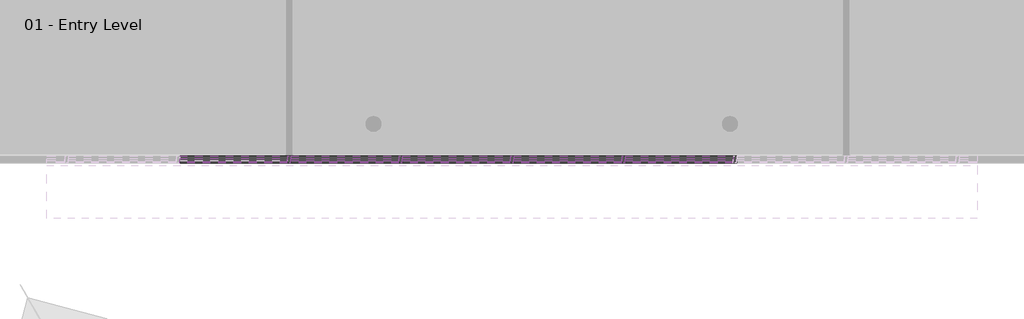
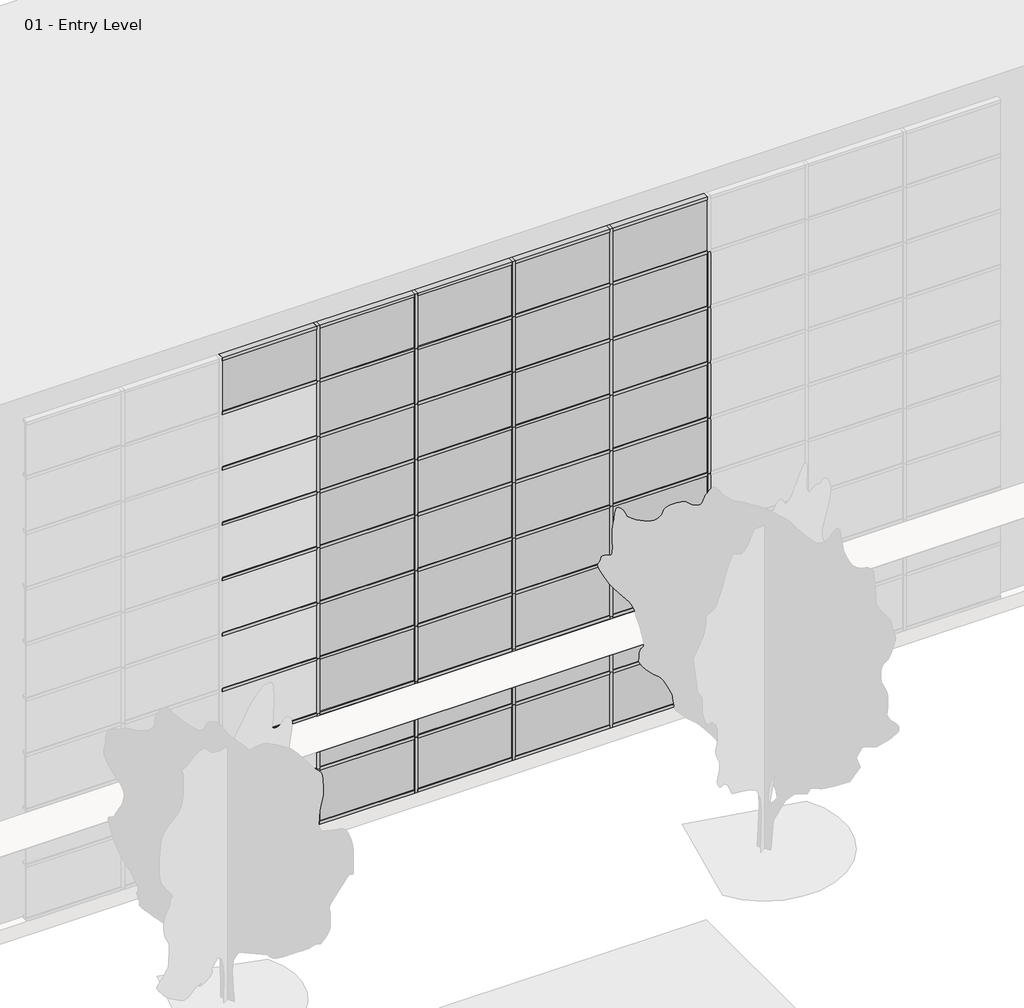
# One storey, part 4 of 34: 94 members, 37 plates.
"""IFC4 building model written with IfcOpenShell, lengths in millimetres."""

from ifc_helpers import new_model, si_unit, origin, place, context, project, spatial, transform, mapped, element, save
from components import member_2b49869a, member_391b434c, member_9e90ae50, system_panel_glazed_1b9d6098, system_panel_glazed_70da479d, system_panel_solid_b376696c, system_panel_solid_77e8b053

model = new_model("IFC4")

# Units and contexts
model_context = context("Model", 3, world=origin())
ifc_project = project(units=[si_unit("LENGTHUNIT", "METRE", prefix="MILLI")], contexts=[model_context])

# Site, building, storey
site = spatial("IfcSite", under=ifc_project)
building = spatial("IfcBuilding", under=site)
storey = spatial("IfcBuildingStorey", under=building, Name="01 - Entry Level", Elevation=0.0)

# Members
placement = place(None, origin())
member_shape = member_2b49869a(model_context)
element("IfcMember", 1, ObjectType="Rectangular Mullion : 2.5\" x 5\" rectangular", at=placement, inside=storey, context=model_context, shape_type="MappedRepresentation", body=[
    mapped(member_shape, transform((40755.2207476, -47.7, 9753.6), x_axis=(1.0, 0.0, 0.0), y_axis=(0.0, -1.0, 0.0), z_axis=(0.0, 0.0, -1.0))),
])
element("IfcMember", 2, ObjectType="Rectangular Mullion : 2.5\" x 5\" rectangular", at=placement, inside=storey, context=model_context, shape_type="MappedRepresentation", body=[
    mapped(member_shape, transform((42787.2207476, -47.7, 9753.6), x_axis=(1.0, 0.0, 0.0), y_axis=(0.0, -1.0, 0.0), z_axis=(0.0, 0.0, -1.0))),
])
element("IfcMember", 3, ObjectType="Rectangular Mullion : 2.5\" x 5\" rectangular", at=placement, inside=storey, context=model_context, shape_type="MappedRepresentation", body=[
    mapped(member_shape, transform((44819.2207476, -47.7, 9753.6), x_axis=(1.0, 0.0, 0.0), y_axis=(0.0, -1.0, 0.0), z_axis=(0.0, 0.0, -1.0))),
])
element("IfcMember", 4, ObjectType="Rectangular Mullion : 2.5\" x 5\" rectangular", at=placement, inside=storey, context=model_context, shape_type="MappedRepresentation", body=[
    mapped(member_shape, transform((46851.2207476, -47.7, 9753.6), x_axis=(1.0, 0.0, 0.0), y_axis=(0.0, -1.0, 0.0), z_axis=(0.0, 0.0, -1.0))),
])
member_2_shape = member_391b434c(model_context)
element("IfcMember", 5, ObjectType="Rectangular Mullion : 2.5\" x 5\" rectangular", at=placement, inside=storey, context=model_context, shape_type="MappedRepresentation", body=[
    mapped(member_2_shape, transform((40723.4707476, -47.7, 10972.8), x_axis=(0.0, 0.0, 1.0), y_axis=(0.0, -1.0, 0.0), z_axis=(1.0, 0.0, 0.0))),
])
element("IfcMember", 6, ObjectType="Rectangular Mullion : 2.5\" x 5\" rectangular", at=placement, inside=storey, context=model_context, shape_type="MappedRepresentation", body=[
    mapped(member_2_shape, transform((42755.4707476, -47.7, 10972.8), x_axis=(0.0, 0.0, 1.0), y_axis=(0.0, -1.0, 0.0), z_axis=(1.0, 0.0, 0.0))),
])
element("IfcMember", 7, ObjectType="Rectangular Mullion : 2.5\" x 5\" rectangular", at=placement, inside=storey, context=model_context, shape_type="MappedRepresentation", body=[
    mapped(member_2_shape, transform((44787.4707476, -47.7, 10972.8), x_axis=(0.0, 0.0, 1.0), y_axis=(0.0, -1.0, 0.0), z_axis=(1.0, 0.0, 0.0))),
])
element("IfcMember", 8, ObjectType="Rectangular Mullion : 2.5\" x 5\" rectangular", at=placement, inside=storey, context=model_context, shape_type="MappedRepresentation", body=[
    mapped(member_2_shape, transform((46819.4707476, -47.7, 10972.8), x_axis=(0.0, 0.0, 1.0), y_axis=(0.0, -1.0, 0.0), z_axis=(1.0, 0.0, 0.0))),
])
element("IfcMember", 9, ObjectType="Rectangular Mullion : 2.5\" x 5\" rectangular", at=placement, inside=storey, context=model_context, shape_type="MappedRepresentation", body=[
    mapped(member_2_shape, transform((48851.4707476, -47.7, 10972.8), x_axis=(0.0, 0.0, 1.0), y_axis=(0.0, -1.0, 0.0), z_axis=(1.0, 0.0, 0.0))),
])
element("IfcMember", 10, ObjectType="Rectangular Mullion : 2.5\" x 5\" rectangular", at=placement, inside=storey, context=model_context, shape_type="MappedRepresentation", body=[
    mapped(member_2_shape, transform((40786.9707476, -47.7, 0.0), x_axis=(0.0, 0.0, -1.0), y_axis=(0.0, -1.0, 0.0), z_axis=(-1.0, 0.0, 0.0))),
])
element("IfcMember", 11, ObjectType="Rectangular Mullion : 2.5\" x 5\" rectangular", at=placement, inside=storey, context=model_context, shape_type="MappedRepresentation", body=[
    mapped(member_2_shape, transform((42818.9707476, -47.7, 0.0), x_axis=(0.0, 0.0, -1.0), y_axis=(0.0, -1.0, 0.0), z_axis=(-1.0, 0.0, 0.0))),
])
element("IfcMember", 12, ObjectType="Rectangular Mullion : 2.5\" x 5\" rectangular", at=placement, inside=storey, context=model_context, shape_type="MappedRepresentation", body=[
    mapped(member_2_shape, transform((44850.9707476, -47.7, 0.0), x_axis=(0.0, 0.0, -1.0), y_axis=(0.0, -1.0, 0.0), z_axis=(-1.0, 0.0, 0.0))),
])
element("IfcMember", 13, ObjectType="Rectangular Mullion : 2.5\" x 5\" rectangular", at=placement, inside=storey, context=model_context, shape_type="MappedRepresentation", body=[
    mapped(member_2_shape, transform((46882.9707476, -47.7, 0.0), x_axis=(0.0, 0.0, -1.0), y_axis=(0.0, -1.0, 0.0), z_axis=(-1.0, 0.0, 0.0))),
])
element("IfcMember", 14, ObjectType="Rectangular Mullion : 2.5\" x 5\" rectangular", at=placement, inside=storey, context=model_context, shape_type="MappedRepresentation", body=[
    mapped(member_2_shape, transform((48914.9707476, -47.7, 0.0), x_axis=(0.0, 0.0, -1.0), y_axis=(0.0, -1.0, 0.0), z_axis=(-1.0, 0.0, 0.0))),
])
member_3_shape = member_9e90ae50(model_context)
element("IfcMember", 15, ObjectType="Rectangular Mullion : 2.5\" x 5\" rectangular", at=placement, inside=storey, context=model_context, shape_type="MappedRepresentation", body=[
    mapped(member_3_shape, transform((40723.4707476, -47.7, 1219.2), x_axis=(0.0, 0.0, 1.0), y_axis=(0.0, -1.0, 0.0), z_axis=(1.0, 0.0, 0.0))),
])
element("IfcMember", 16, ObjectType="Rectangular Mullion : 2.5\" x 5\" rectangular", at=placement, inside=storey, context=model_context, shape_type="MappedRepresentation", body=[
    mapped(member_3_shape, transform((42755.4707476, -47.7, 1219.2), x_axis=(0.0, 0.0, 1.0), y_axis=(0.0, -1.0, 0.0), z_axis=(1.0, 0.0, 0.0))),
])
element("IfcMember", 17, ObjectType="Rectangular Mullion : 2.5\" x 5\" rectangular", at=placement, inside=storey, context=model_context, shape_type="MappedRepresentation", body=[
    mapped(member_3_shape, transform((44787.4707476, -47.7, 1219.2), x_axis=(0.0, 0.0, 1.0), y_axis=(0.0, -1.0, 0.0), z_axis=(1.0, 0.0, 0.0))),
])
element("IfcMember", 18, ObjectType="Rectangular Mullion : 2.5\" x 5\" rectangular", at=placement, inside=storey, context=model_context, shape_type="MappedRepresentation", body=[
    mapped(member_3_shape, transform((46819.4707476, -47.7, 1219.2), x_axis=(0.0, 0.0, 1.0), y_axis=(0.0, -1.0, 0.0), z_axis=(1.0, 0.0, 0.0))),
])
element("IfcMember", 19, ObjectType="Rectangular Mullion : 2.5\" x 5\" rectangular", at=placement, inside=storey, context=model_context, shape_type="MappedRepresentation", body=[
    mapped(member_3_shape, transform((48851.4707476, -47.7, 1219.2), x_axis=(0.0, 0.0, 1.0), y_axis=(0.0, -1.0, 0.0), z_axis=(1.0, 0.0, 0.0))),
])
element("IfcMember", 20, ObjectType="Rectangular Mullion : 2.5\" x 5\" rectangular", at=placement, inside=storey, context=model_context, shape_type="MappedRepresentation", body=[
    mapped(member_3_shape, transform((40723.4707476, -47.7, 2438.4), x_axis=(0.0, 0.0, 1.0), y_axis=(0.0, -1.0, 0.0), z_axis=(1.0, 0.0, 0.0))),
])
element("IfcMember", 21, ObjectType="Rectangular Mullion : 2.5\" x 5\" rectangular", at=placement, inside=storey, context=model_context, shape_type="MappedRepresentation", body=[
    mapped(member_3_shape, transform((42755.4707476, -47.7, 2438.4), x_axis=(0.0, 0.0, 1.0), y_axis=(0.0, -1.0, 0.0), z_axis=(1.0, 0.0, 0.0))),
])
element("IfcMember", 22, ObjectType="Rectangular Mullion : 2.5\" x 5\" rectangular", at=placement, inside=storey, context=model_context, shape_type="MappedRepresentation", body=[
    mapped(member_3_shape, transform((44787.4707476, -47.7, 2438.4), x_axis=(0.0, 0.0, 1.0), y_axis=(0.0, -1.0, 0.0), z_axis=(1.0, 0.0, 0.0))),
])
element("IfcMember", 23, ObjectType="Rectangular Mullion : 2.5\" x 5\" rectangular", at=placement, inside=storey, context=model_context, shape_type="MappedRepresentation", body=[
    mapped(member_3_shape, transform((46819.4707476, -47.7, 2438.4), x_axis=(0.0, 0.0, 1.0), y_axis=(0.0, -1.0, 0.0), z_axis=(1.0, 0.0, 0.0))),
])
element("IfcMember", 24, ObjectType="Rectangular Mullion : 2.5\" x 5\" rectangular", at=placement, inside=storey, context=model_context, shape_type="MappedRepresentation", body=[
    mapped(member_3_shape, transform((48851.4707476, -47.7, 2438.4), x_axis=(0.0, 0.0, 1.0), y_axis=(0.0, -1.0, 0.0), z_axis=(1.0, 0.0, 0.0))),
])
element("IfcMember", 25, ObjectType="Rectangular Mullion : 2.5\" x 5\" rectangular", at=placement, inside=storey, context=model_context, shape_type="MappedRepresentation", body=[
    mapped(member_3_shape, transform((40723.4707476, -47.7, 3657.6), x_axis=(0.0, 0.0, 1.0), y_axis=(0.0, -1.0, 0.0), z_axis=(1.0, 0.0, 0.0))),
])
element("IfcMember", 26, ObjectType="Rectangular Mullion : 2.5\" x 5\" rectangular", at=placement, inside=storey, context=model_context, shape_type="MappedRepresentation", body=[
    mapped(member_3_shape, transform((42755.4707476, -47.7, 3657.6), x_axis=(0.0, 0.0, 1.0), y_axis=(0.0, -1.0, 0.0), z_axis=(1.0, 0.0, 0.0))),
])
element("IfcMember", 27, ObjectType="Rectangular Mullion : 2.5\" x 5\" rectangular", at=placement, inside=storey, context=model_context, shape_type="MappedRepresentation", body=[
    mapped(member_3_shape, transform((44787.4707476, -47.7, 3657.6), x_axis=(0.0, 0.0, 1.0), y_axis=(0.0, -1.0, 0.0), z_axis=(1.0, 0.0, 0.0))),
])
element("IfcMember", 28, ObjectType="Rectangular Mullion : 2.5\" x 5\" rectangular", at=placement, inside=storey, context=model_context, shape_type="MappedRepresentation", body=[
    mapped(member_3_shape, transform((46819.4707476, -47.7, 3657.6), x_axis=(0.0, 0.0, 1.0), y_axis=(0.0, -1.0, 0.0), z_axis=(1.0, 0.0, 0.0))),
])
element("IfcMember", 29, ObjectType="Rectangular Mullion : 2.5\" x 5\" rectangular", at=placement, inside=storey, context=model_context, shape_type="MappedRepresentation", body=[
    mapped(member_3_shape, transform((48851.4707476, -47.7, 3657.6), x_axis=(0.0, 0.0, 1.0), y_axis=(0.0, -1.0, 0.0), z_axis=(1.0, 0.0, 0.0))),
])
element("IfcMember", 30, ObjectType="Rectangular Mullion : 2.5\" x 5\" rectangular", at=placement, inside=storey, context=model_context, shape_type="MappedRepresentation", body=[
    mapped(member_3_shape, transform((40723.4707476, -47.7, 4876.8), x_axis=(0.0, 0.0, 1.0), y_axis=(0.0, -1.0, 0.0), z_axis=(1.0, 0.0, 0.0))),
])
element("IfcMember", 31, ObjectType="Rectangular Mullion : 2.5\" x 5\" rectangular", at=placement, inside=storey, context=model_context, shape_type="MappedRepresentation", body=[
    mapped(member_3_shape, transform((42755.4707476, -47.7, 4876.8), x_axis=(0.0, 0.0, 1.0), y_axis=(0.0, -1.0, 0.0), z_axis=(1.0, 0.0, 0.0))),
])
element("IfcMember", 32, ObjectType="Rectangular Mullion : 2.5\" x 5\" rectangular", at=placement, inside=storey, context=model_context, shape_type="MappedRepresentation", body=[
    mapped(member_3_shape, transform((44787.4707476, -47.7, 4876.8), x_axis=(0.0, 0.0, 1.0), y_axis=(0.0, -1.0, 0.0), z_axis=(1.0, 0.0, 0.0))),
])
element("IfcMember", 33, ObjectType="Rectangular Mullion : 2.5\" x 5\" rectangular", at=placement, inside=storey, context=model_context, shape_type="MappedRepresentation", body=[
    mapped(member_3_shape, transform((46819.4707476, -47.7, 4876.8), x_axis=(0.0, 0.0, 1.0), y_axis=(0.0, -1.0, 0.0), z_axis=(1.0, 0.0, 0.0))),
])
element("IfcMember", 34, ObjectType="Rectangular Mullion : 2.5\" x 5\" rectangular", at=placement, inside=storey, context=model_context, shape_type="MappedRepresentation", body=[
    mapped(member_3_shape, transform((48851.4707476, -47.7, 4876.8), x_axis=(0.0, 0.0, 1.0), y_axis=(0.0, -1.0, 0.0), z_axis=(1.0, 0.0, 0.0))),
])
element("IfcMember", 35, ObjectType="Rectangular Mullion : 2.5\" x 5\" rectangular", at=placement, inside=storey, context=model_context, shape_type="MappedRepresentation", body=[
    mapped(member_3_shape, transform((40723.4707476, -47.7, 6096.0), x_axis=(0.0, 0.0, 1.0), y_axis=(0.0, -1.0, 0.0), z_axis=(1.0, 0.0, 0.0))),
])
element("IfcMember", 36, ObjectType="Rectangular Mullion : 2.5\" x 5\" rectangular", at=placement, inside=storey, context=model_context, shape_type="MappedRepresentation", body=[
    mapped(member_3_shape, transform((42755.4707476, -47.7, 6096.0), x_axis=(0.0, 0.0, 1.0), y_axis=(0.0, -1.0, 0.0), z_axis=(1.0, 0.0, 0.0))),
])
element("IfcMember", 37, ObjectType="Rectangular Mullion : 2.5\" x 5\" rectangular", at=placement, inside=storey, context=model_context, shape_type="MappedRepresentation", body=[
    mapped(member_3_shape, transform((44787.4707476, -47.7, 6096.0), x_axis=(0.0, 0.0, 1.0), y_axis=(0.0, -1.0, 0.0), z_axis=(1.0, 0.0, 0.0))),
])
element("IfcMember", 38, ObjectType="Rectangular Mullion : 2.5\" x 5\" rectangular", at=placement, inside=storey, context=model_context, shape_type="MappedRepresentation", body=[
    mapped(member_3_shape, transform((46819.4707476, -47.7, 6096.0), x_axis=(0.0, 0.0, 1.0), y_axis=(0.0, -1.0, 0.0), z_axis=(1.0, 0.0, 0.0))),
])
element("IfcMember", 39, ObjectType="Rectangular Mullion : 2.5\" x 5\" rectangular", at=placement, inside=storey, context=model_context, shape_type="MappedRepresentation", body=[
    mapped(member_3_shape, transform((48851.4707476, -47.7, 6096.0), x_axis=(0.0, 0.0, 1.0), y_axis=(0.0, -1.0, 0.0), z_axis=(1.0, 0.0, 0.0))),
])
element("IfcMember", 40, ObjectType="Rectangular Mullion : 2.5\" x 5\" rectangular", at=placement, inside=storey, context=model_context, shape_type="MappedRepresentation", body=[
    mapped(member_3_shape, transform((40723.4707476, -47.7, 7315.2), x_axis=(0.0, 0.0, 1.0), y_axis=(0.0, -1.0, 0.0), z_axis=(1.0, 0.0, 0.0))),
])
element("IfcMember", 41, ObjectType="Rectangular Mullion : 2.5\" x 5\" rectangular", at=placement, inside=storey, context=model_context, shape_type="MappedRepresentation", body=[
    mapped(member_3_shape, transform((42755.4707476, -47.7, 7315.2), x_axis=(0.0, 0.0, 1.0), y_axis=(0.0, -1.0, 0.0), z_axis=(1.0, 0.0, 0.0))),
])
element("IfcMember", 42, ObjectType="Rectangular Mullion : 2.5\" x 5\" rectangular", at=placement, inside=storey, context=model_context, shape_type="MappedRepresentation", body=[
    mapped(member_3_shape, transform((44787.4707476, -47.7, 7315.2), x_axis=(0.0, 0.0, 1.0), y_axis=(0.0, -1.0, 0.0), z_axis=(1.0, 0.0, 0.0))),
])
element("IfcMember", 43, ObjectType="Rectangular Mullion : 2.5\" x 5\" rectangular", at=placement, inside=storey, context=model_context, shape_type="MappedRepresentation", body=[
    mapped(member_3_shape, transform((46819.4707476, -47.7, 7315.2), x_axis=(0.0, 0.0, 1.0), y_axis=(0.0, -1.0, 0.0), z_axis=(1.0, 0.0, 0.0))),
])
element("IfcMember", 44, ObjectType="Rectangular Mullion : 2.5\" x 5\" rectangular", at=placement, inside=storey, context=model_context, shape_type="MappedRepresentation", body=[
    mapped(member_3_shape, transform((48851.4707476, -47.7, 7315.2), x_axis=(0.0, 0.0, 1.0), y_axis=(0.0, -1.0, 0.0), z_axis=(1.0, 0.0, 0.0))),
])
element("IfcMember", 45, ObjectType="Rectangular Mullion : 2.5\" x 5\" rectangular", at=placement, inside=storey, context=model_context, shape_type="MappedRepresentation", body=[
    mapped(member_3_shape, transform((40723.4707476, -47.7, 8534.4), x_axis=(0.0, 0.0, 1.0), y_axis=(0.0, -1.0, 0.0), z_axis=(1.0, 0.0, 0.0))),
])
element("IfcMember", 46, ObjectType="Rectangular Mullion : 2.5\" x 5\" rectangular", at=placement, inside=storey, context=model_context, shape_type="MappedRepresentation", body=[
    mapped(member_3_shape, transform((42755.4707476, -47.7, 8534.4), x_axis=(0.0, 0.0, 1.0), y_axis=(0.0, -1.0, 0.0), z_axis=(1.0, 0.0, 0.0))),
])
element("IfcMember", 47, ObjectType="Rectangular Mullion : 2.5\" x 5\" rectangular", at=placement, inside=storey, context=model_context, shape_type="MappedRepresentation", body=[
    mapped(member_3_shape, transform((44787.4707476, -47.7, 8534.4), x_axis=(0.0, 0.0, 1.0), y_axis=(0.0, -1.0, 0.0), z_axis=(1.0, 0.0, 0.0))),
])
element("IfcMember", 48, ObjectType="Rectangular Mullion : 2.5\" x 5\" rectangular", at=placement, inside=storey, context=model_context, shape_type="MappedRepresentation", body=[
    mapped(member_3_shape, transform((46819.4707476, -47.7, 8534.4), x_axis=(0.0, 0.0, 1.0), y_axis=(0.0, -1.0, 0.0), z_axis=(1.0, 0.0, 0.0))),
])
element("IfcMember", 49, ObjectType="Rectangular Mullion : 2.5\" x 5\" rectangular", at=placement, inside=storey, context=model_context, shape_type="MappedRepresentation", body=[
    mapped(member_3_shape, transform((48851.4707476, -47.7, 8534.4), x_axis=(0.0, 0.0, 1.0), y_axis=(0.0, -1.0, 0.0), z_axis=(1.0, 0.0, 0.0))),
])
element("IfcMember", 50, ObjectType="Rectangular Mullion : 2.5\" x 5\" rectangular", at=placement, inside=storey, context=model_context, shape_type="MappedRepresentation", body=[
    mapped(member_3_shape, transform((40723.4707476, -47.7, 9753.6), x_axis=(0.0, 0.0, 1.0), y_axis=(0.0, -1.0, 0.0), z_axis=(1.0, 0.0, 0.0))),
])
element("IfcMember", 51, ObjectType="Rectangular Mullion : 2.5\" x 5\" rectangular", at=placement, inside=storey, context=model_context, shape_type="MappedRepresentation", body=[
    mapped(member_3_shape, transform((42755.4707476, -47.7, 9753.6), x_axis=(0.0, 0.0, 1.0), y_axis=(0.0, -1.0, 0.0), z_axis=(1.0, 0.0, 0.0))),
])
element("IfcMember", 52, ObjectType="Rectangular Mullion : 2.5\" x 5\" rectangular", at=placement, inside=storey, context=model_context, shape_type="MappedRepresentation", body=[
    mapped(member_3_shape, transform((44787.4707476, -47.7, 9753.6), x_axis=(0.0, 0.0, 1.0), y_axis=(0.0, -1.0, 0.0), z_axis=(1.0, 0.0, 0.0))),
])
element("IfcMember", 53, ObjectType="Rectangular Mullion : 2.5\" x 5\" rectangular", at=placement, inside=storey, context=model_context, shape_type="MappedRepresentation", body=[
    mapped(member_3_shape, transform((46819.4707476, -47.7, 9753.6), x_axis=(0.0, 0.0, 1.0), y_axis=(0.0, -1.0, 0.0), z_axis=(1.0, 0.0, 0.0))),
])
element("IfcMember", 54, ObjectType="Rectangular Mullion : 2.5\" x 5\" rectangular", at=placement, inside=storey, context=model_context, shape_type="MappedRepresentation", body=[
    mapped(member_3_shape, transform((48851.4707476, -47.7, 9753.6), x_axis=(0.0, 0.0, 1.0), y_axis=(0.0, -1.0, 0.0), z_axis=(1.0, 0.0, 0.0))),
])
element("IfcMember", 55, ObjectType="Rectangular Mullion : 2.5\" x 5\" rectangular", at=placement, inside=storey, context=model_context, shape_type="MappedRepresentation", body=[
    mapped(member_shape, transform((40755.2207476, -47.7, 0.0), x_axis=(1.0, 0.0, 0.0), y_axis=(0.0, -1.0, 0.0), z_axis=(0.0, 0.0, -1.0))),
])
element("IfcMember", 56, ObjectType="Rectangular Mullion : 2.5\" x 5\" rectangular", at=placement, inside=storey, context=model_context, shape_type="MappedRepresentation", body=[
    mapped(member_shape, transform((42787.2207476, -47.7, 0.0), x_axis=(1.0, 0.0, 0.0), y_axis=(0.0, -1.0, 0.0), z_axis=(0.0, 0.0, -1.0))),
])
element("IfcMember", 57, ObjectType="Rectangular Mullion : 2.5\" x 5\" rectangular", at=placement, inside=storey, context=model_context, shape_type="MappedRepresentation", body=[
    mapped(member_shape, transform((44819.2207476, -47.7, 0.0), x_axis=(1.0, 0.0, 0.0), y_axis=(0.0, -1.0, 0.0), z_axis=(0.0, 0.0, -1.0))),
])
element("IfcMember", 58, ObjectType="Rectangular Mullion : 2.5\" x 5\" rectangular", at=placement, inside=storey, context=model_context, shape_type="MappedRepresentation", body=[
    mapped(member_shape, transform((46851.2207476, -47.7, 0.0), x_axis=(1.0, 0.0, 0.0), y_axis=(0.0, -1.0, 0.0), z_axis=(0.0, 0.0, -1.0))),
])
element("IfcMember", 59, ObjectType="Rectangular Mullion : 2.5\" x 5\" rectangular", at=placement, inside=storey, context=model_context, shape_type="MappedRepresentation", body=[
    mapped(member_shape, transform((48883.2207476, -47.7, 0.0), x_axis=(1.0, 0.0, 0.0), y_axis=(0.0, -1.0, 0.0), z_axis=(0.0, 0.0, -1.0))),
])
element("IfcMember", 60, ObjectType="Rectangular Mullion : 2.5\" x 5\" rectangular", at=placement, inside=storey, context=model_context, shape_type="MappedRepresentation", body=[
    mapped(member_shape, transform((40755.2207476, -47.7, 1219.2), x_axis=(1.0, 0.0, 0.0), y_axis=(0.0, -1.0, 0.0), z_axis=(0.0, 0.0, -1.0))),
])
element("IfcMember", 61, ObjectType="Rectangular Mullion : 2.5\" x 5\" rectangular", at=placement, inside=storey, context=model_context, shape_type="MappedRepresentation", body=[
    mapped(member_shape, transform((42787.2207476, -47.7, 1219.2), x_axis=(1.0, 0.0, 0.0), y_axis=(0.0, -1.0, 0.0), z_axis=(0.0, 0.0, -1.0))),
])
element("IfcMember", 62, ObjectType="Rectangular Mullion : 2.5\" x 5\" rectangular", at=placement, inside=storey, context=model_context, shape_type="MappedRepresentation", body=[
    mapped(member_shape, transform((44819.2207476, -47.7, 1219.2), x_axis=(1.0, 0.0, 0.0), y_axis=(0.0, -1.0, 0.0), z_axis=(0.0, 0.0, -1.0))),
])
element("IfcMember", 63, ObjectType="Rectangular Mullion : 2.5\" x 5\" rectangular", at=placement, inside=storey, context=model_context, shape_type="MappedRepresentation", body=[
    mapped(member_shape, transform((46851.2207476, -47.7, 1219.2), x_axis=(1.0, 0.0, 0.0), y_axis=(0.0, -1.0, 0.0), z_axis=(0.0, 0.0, -1.0))),
])
element("IfcMember", 64, ObjectType="Rectangular Mullion : 2.5\" x 5\" rectangular", at=placement, inside=storey, context=model_context, shape_type="MappedRepresentation", body=[
    mapped(member_shape, transform((48883.2207476, -47.7, 1219.2), x_axis=(1.0, 0.0, 0.0), y_axis=(0.0, -1.0, 0.0), z_axis=(0.0, 0.0, -1.0))),
])
element("IfcMember", 65, ObjectType="Rectangular Mullion : 2.5\" x 5\" rectangular", at=placement, inside=storey, context=model_context, shape_type="MappedRepresentation", body=[
    mapped(member_shape, transform((40755.2207476, -47.7, 2438.4), x_axis=(1.0, 0.0, 0.0), y_axis=(0.0, -1.0, 0.0), z_axis=(0.0, 0.0, -1.0))),
])
element("IfcMember", 66, ObjectType="Rectangular Mullion : 2.5\" x 5\" rectangular", at=placement, inside=storey, context=model_context, shape_type="MappedRepresentation", body=[
    mapped(member_shape, transform((42787.2207476, -47.7, 2438.4), x_axis=(1.0, 0.0, 0.0), y_axis=(0.0, -1.0, 0.0), z_axis=(0.0, 0.0, -1.0))),
])
element("IfcMember", 67, ObjectType="Rectangular Mullion : 2.5\" x 5\" rectangular", at=placement, inside=storey, context=model_context, shape_type="MappedRepresentation", body=[
    mapped(member_shape, transform((44819.2207476, -47.7, 2438.4), x_axis=(1.0, 0.0, 0.0), y_axis=(0.0, -1.0, 0.0), z_axis=(0.0, 0.0, -1.0))),
])
element("IfcMember", 68, ObjectType="Rectangular Mullion : 2.5\" x 5\" rectangular", at=placement, inside=storey, context=model_context, shape_type="MappedRepresentation", body=[
    mapped(member_shape, transform((46851.2207476, -47.7, 2438.4), x_axis=(1.0, 0.0, 0.0), y_axis=(0.0, -1.0, 0.0), z_axis=(0.0, 0.0, -1.0))),
])
element("IfcMember", 69, ObjectType="Rectangular Mullion : 2.5\" x 5\" rectangular", at=placement, inside=storey, context=model_context, shape_type="MappedRepresentation", body=[
    mapped(member_shape, transform((48883.2207476, -47.7, 2438.4), x_axis=(1.0, 0.0, 0.0), y_axis=(0.0, -1.0, 0.0), z_axis=(0.0, 0.0, -1.0))),
])
element("IfcMember", 70, ObjectType="Rectangular Mullion : 2.5\" x 5\" rectangular", at=placement, inside=storey, context=model_context, shape_type="MappedRepresentation", body=[
    mapped(member_shape, transform((40755.2207476, -47.7, 3657.6), x_axis=(1.0, 0.0, 0.0), y_axis=(0.0, -1.0, 0.0), z_axis=(0.0, 0.0, -1.0))),
])
element("IfcMember", 71, ObjectType="Rectangular Mullion : 2.5\" x 5\" rectangular", at=placement, inside=storey, context=model_context, shape_type="MappedRepresentation", body=[
    mapped(member_shape, transform((42787.2207476, -47.7, 3657.6), x_axis=(1.0, 0.0, 0.0), y_axis=(0.0, -1.0, 0.0), z_axis=(0.0, 0.0, -1.0))),
])
element("IfcMember", 72, ObjectType="Rectangular Mullion : 2.5\" x 5\" rectangular", at=placement, inside=storey, context=model_context, shape_type="MappedRepresentation", body=[
    mapped(member_shape, transform((44819.2207476, -47.7, 3657.6), x_axis=(1.0, 0.0, 0.0), y_axis=(0.0, -1.0, 0.0), z_axis=(0.0, 0.0, -1.0))),
])
element("IfcMember", 73, ObjectType="Rectangular Mullion : 2.5\" x 5\" rectangular", at=placement, inside=storey, context=model_context, shape_type="MappedRepresentation", body=[
    mapped(member_shape, transform((46851.2207476, -47.7, 3657.6), x_axis=(1.0, 0.0, 0.0), y_axis=(0.0, -1.0, 0.0), z_axis=(0.0, 0.0, -1.0))),
])
element("IfcMember", 74, ObjectType="Rectangular Mullion : 2.5\" x 5\" rectangular", at=placement, inside=storey, context=model_context, shape_type="MappedRepresentation", body=[
    mapped(member_shape, transform((48883.2207476, -47.7, 3657.6), x_axis=(1.0, 0.0, 0.0), y_axis=(0.0, -1.0, 0.0), z_axis=(0.0, 0.0, -1.0))),
])
element("IfcMember", 75, ObjectType="Rectangular Mullion : 2.5\" x 5\" rectangular", at=placement, inside=storey, context=model_context, shape_type="MappedRepresentation", body=[
    mapped(member_shape, transform((40755.2207476, -47.7, 4876.8), x_axis=(1.0, 0.0, 0.0), y_axis=(0.0, -1.0, 0.0), z_axis=(0.0, 0.0, -1.0))),
])
element("IfcMember", 76, ObjectType="Rectangular Mullion : 2.5\" x 5\" rectangular", at=placement, inside=storey, context=model_context, shape_type="MappedRepresentation", body=[
    mapped(member_shape, transform((42787.2207476, -47.7, 4876.8), x_axis=(1.0, 0.0, 0.0), y_axis=(0.0, -1.0, 0.0), z_axis=(0.0, 0.0, -1.0))),
])
element("IfcMember", 77, ObjectType="Rectangular Mullion : 2.5\" x 5\" rectangular", at=placement, inside=storey, context=model_context, shape_type="MappedRepresentation", body=[
    mapped(member_shape, transform((44819.2207476, -47.7, 4876.8), x_axis=(1.0, 0.0, 0.0), y_axis=(0.0, -1.0, 0.0), z_axis=(0.0, 0.0, -1.0))),
])
element("IfcMember", 78, ObjectType="Rectangular Mullion : 2.5\" x 5\" rectangular", at=placement, inside=storey, context=model_context, shape_type="MappedRepresentation", body=[
    mapped(member_shape, transform((46851.2207476, -47.7, 4876.8), x_axis=(1.0, 0.0, 0.0), y_axis=(0.0, -1.0, 0.0), z_axis=(0.0, 0.0, -1.0))),
])
element("IfcMember", 79, ObjectType="Rectangular Mullion : 2.5\" x 5\" rectangular", at=placement, inside=storey, context=model_context, shape_type="MappedRepresentation", body=[
    mapped(member_shape, transform((48883.2207476, -47.7, 4876.8), x_axis=(1.0, 0.0, 0.0), y_axis=(0.0, -1.0, 0.0), z_axis=(0.0, 0.0, -1.0))),
])
element("IfcMember", 80, ObjectType="Rectangular Mullion : 2.5\" x 5\" rectangular", at=placement, inside=storey, context=model_context, shape_type="MappedRepresentation", body=[
    mapped(member_shape, transform((40755.2207476, -47.7, 6096.0), x_axis=(1.0, 0.0, 0.0), y_axis=(0.0, -1.0, 0.0), z_axis=(0.0, 0.0, -1.0))),
])
element("IfcMember", 81, ObjectType="Rectangular Mullion : 2.5\" x 5\" rectangular", at=placement, inside=storey, context=model_context, shape_type="MappedRepresentation", body=[
    mapped(member_shape, transform((42787.2207476, -47.7, 6096.0), x_axis=(1.0, 0.0, 0.0), y_axis=(0.0, -1.0, 0.0), z_axis=(0.0, 0.0, -1.0))),
])
element("IfcMember", 82, ObjectType="Rectangular Mullion : 2.5\" x 5\" rectangular", at=placement, inside=storey, context=model_context, shape_type="MappedRepresentation", body=[
    mapped(member_shape, transform((44819.2207476, -47.7, 6096.0), x_axis=(1.0, 0.0, 0.0), y_axis=(0.0, -1.0, 0.0), z_axis=(0.0, 0.0, -1.0))),
])
element("IfcMember", 83, ObjectType="Rectangular Mullion : 2.5\" x 5\" rectangular", at=placement, inside=storey, context=model_context, shape_type="MappedRepresentation", body=[
    mapped(member_shape, transform((46851.2207476, -47.7, 6096.0), x_axis=(1.0, 0.0, 0.0), y_axis=(0.0, -1.0, 0.0), z_axis=(0.0, 0.0, -1.0))),
])
element("IfcMember", 84, ObjectType="Rectangular Mullion : 2.5\" x 5\" rectangular", at=placement, inside=storey, context=model_context, shape_type="MappedRepresentation", body=[
    mapped(member_shape, transform((48883.2207476, -47.7, 6096.0), x_axis=(1.0, 0.0, 0.0), y_axis=(0.0, -1.0, 0.0), z_axis=(0.0, 0.0, -1.0))),
])
element("IfcMember", 85, ObjectType="Rectangular Mullion : 2.5\" x 5\" rectangular", at=placement, inside=storey, context=model_context, shape_type="MappedRepresentation", body=[
    mapped(member_shape, transform((40755.2207476, -47.7, 7315.2), x_axis=(1.0, 0.0, 0.0), y_axis=(0.0, -1.0, 0.0), z_axis=(0.0, 0.0, -1.0))),
])
element("IfcMember", 86, ObjectType="Rectangular Mullion : 2.5\" x 5\" rectangular", at=placement, inside=storey, context=model_context, shape_type="MappedRepresentation", body=[
    mapped(member_shape, transform((42787.2207476, -47.7, 7315.2), x_axis=(1.0, 0.0, 0.0), y_axis=(0.0, -1.0, 0.0), z_axis=(0.0, 0.0, -1.0))),
])
element("IfcMember", 87, ObjectType="Rectangular Mullion : 2.5\" x 5\" rectangular", at=placement, inside=storey, context=model_context, shape_type="MappedRepresentation", body=[
    mapped(member_shape, transform((44819.2207476, -47.7, 7315.2), x_axis=(1.0, 0.0, 0.0), y_axis=(0.0, -1.0, 0.0), z_axis=(0.0, 0.0, -1.0))),
])
element("IfcMember", 88, ObjectType="Rectangular Mullion : 2.5\" x 5\" rectangular", at=placement, inside=storey, context=model_context, shape_type="MappedRepresentation", body=[
    mapped(member_shape, transform((46851.2207476, -47.7, 7315.2), x_axis=(1.0, 0.0, 0.0), y_axis=(0.0, -1.0, 0.0), z_axis=(0.0, 0.0, -1.0))),
])
element("IfcMember", 89, ObjectType="Rectangular Mullion : 2.5\" x 5\" rectangular", at=placement, inside=storey, context=model_context, shape_type="MappedRepresentation", body=[
    mapped(member_shape, transform((48883.2207476, -47.7, 7315.2), x_axis=(1.0, 0.0, 0.0), y_axis=(0.0, -1.0, 0.0), z_axis=(0.0, 0.0, -1.0))),
])
element("IfcMember", 90, ObjectType="Rectangular Mullion : 2.5\" x 5\" rectangular", at=placement, inside=storey, context=model_context, shape_type="MappedRepresentation", body=[
    mapped(member_shape, transform((40755.2207476, -47.7, 8534.4), x_axis=(1.0, 0.0, 0.0), y_axis=(0.0, -1.0, 0.0), z_axis=(0.0, 0.0, -1.0))),
])
element("IfcMember", 91, ObjectType="Rectangular Mullion : 2.5\" x 5\" rectangular", at=placement, inside=storey, context=model_context, shape_type="MappedRepresentation", body=[
    mapped(member_shape, transform((42787.2207476, -47.7, 8534.4), x_axis=(1.0, 0.0, 0.0), y_axis=(0.0, -1.0, 0.0), z_axis=(0.0, 0.0, -1.0))),
])
element("IfcMember", 92, ObjectType="Rectangular Mullion : 2.5\" x 5\" rectangular", at=placement, inside=storey, context=model_context, shape_type="MappedRepresentation", body=[
    mapped(member_shape, transform((44819.2207476, -47.7, 8534.4), x_axis=(1.0, 0.0, 0.0), y_axis=(0.0, -1.0, 0.0), z_axis=(0.0, 0.0, -1.0))),
])
element("IfcMember", 93, ObjectType="Rectangular Mullion : 2.5\" x 5\" rectangular", at=placement, inside=storey, context=model_context, shape_type="MappedRepresentation", body=[
    mapped(member_shape, transform((46851.2207476, -47.7, 8534.4), x_axis=(1.0, 0.0, 0.0), y_axis=(0.0, -1.0, 0.0), z_axis=(0.0, 0.0, -1.0))),
])
element("IfcMember", 94, ObjectType="Rectangular Mullion : 2.5\" x 5\" rectangular", at=placement, inside=storey, context=model_context, shape_type="MappedRepresentation", body=[
    mapped(member_shape, transform((48883.2207476, -47.7, 8534.4), x_axis=(1.0, 0.0, 0.0), y_axis=(0.0, -1.0, 0.0), z_axis=(0.0, 0.0, -1.0))),
])

# Plates
system_panel_glazed_shape = system_panel_glazed_1b9d6098(model_context)
element("IfcPlate", 95, ObjectType="System Panel : Glazed", at=placement, inside=storey, context=model_context, shape_type="MappedRepresentation", body=[
    mapped(system_panel_glazed_shape, transform((41771.2207476, -47.7, 63.5), x_axis=(1.0, 0.0, 0.0), y_axis=(0.0, 1.0, 0.0), z_axis=(0.0, 0.0, 1.0))),
])
element("IfcPlate", 96, ObjectType="System Panel : Glazed", at=placement, inside=storey, context=model_context, shape_type="MappedRepresentation", body=[
    mapped(system_panel_glazed_shape, transform((43803.2207476, -47.7, 63.5), x_axis=(1.0, 0.0, 0.0), y_axis=(0.0, 1.0, 0.0), z_axis=(0.0, 0.0, 1.0))),
])
element("IfcPlate", 97, ObjectType="System Panel : Glazed", at=placement, inside=storey, context=model_context, shape_type="MappedRepresentation", body=[
    mapped(system_panel_glazed_shape, transform((45835.2207476, -47.7, 63.5), x_axis=(1.0, 0.0, 0.0), y_axis=(0.0, 1.0, 0.0), z_axis=(0.0, 0.0, 1.0))),
])
element("IfcPlate", 98, ObjectType="System Panel : Glazed", at=placement, inside=storey, context=model_context, shape_type="MappedRepresentation", body=[
    mapped(system_panel_glazed_shape, transform((47867.2207476, -47.7, 63.5), x_axis=(1.0, 0.0, 0.0), y_axis=(0.0, 1.0, 0.0), z_axis=(0.0, 0.0, 1.0))),
])
system_panel_glazed_2_shape = system_panel_glazed_70da479d(model_context)
element("IfcPlate", 99, ObjectType="System Panel : Glazed", at=placement, inside=storey, context=model_context, shape_type="MappedRepresentation", body=[
    mapped(system_panel_glazed_2_shape, transform((41771.2207476, -47.7, 1250.95), x_axis=(1.0, 0.0, 0.0), y_axis=(0.0, 1.0, 0.0), z_axis=(0.0, 0.0, 1.0))),
])
element("IfcPlate", 100, ObjectType="System Panel : Glazed", at=placement, inside=storey, context=model_context, shape_type="MappedRepresentation", body=[
    mapped(system_panel_glazed_2_shape, transform((43803.2207476, -47.7, 1250.95), x_axis=(1.0, 0.0, 0.0), y_axis=(0.0, 1.0, 0.0), z_axis=(0.0, 0.0, 1.0))),
])
element("IfcPlate", 101, ObjectType="System Panel : Glazed", at=placement, inside=storey, context=model_context, shape_type="MappedRepresentation", body=[
    mapped(system_panel_glazed_2_shape, transform((45835.2207476, -47.7, 1250.95), x_axis=(1.0, 0.0, 0.0), y_axis=(0.0, 1.0, 0.0), z_axis=(0.0, 0.0, 1.0))),
])
element("IfcPlate", 102, ObjectType="System Panel : Glazed", at=placement, inside=storey, context=model_context, shape_type="MappedRepresentation", body=[
    mapped(system_panel_glazed_2_shape, transform((47867.2207476, -47.7, 1250.95), x_axis=(1.0, 0.0, 0.0), y_axis=(0.0, 1.0, 0.0), z_axis=(0.0, 0.0, 1.0))),
])
element("IfcPlate", 103, ObjectType="System Panel : Glazed", at=placement, inside=storey, context=model_context, shape_type="MappedRepresentation", body=[
    mapped(system_panel_glazed_2_shape, transform((41771.2207476, -47.7, 3689.35), x_axis=(1.0, 0.0, 0.0), y_axis=(0.0, 1.0, 0.0), z_axis=(0.0, 0.0, 1.0))),
])
element("IfcPlate", 104, ObjectType="System Panel : Glazed", at=placement, inside=storey, context=model_context, shape_type="MappedRepresentation", body=[
    mapped(system_panel_glazed_2_shape, transform((43803.2207476, -47.7, 3689.35), x_axis=(1.0, 0.0, 0.0), y_axis=(0.0, 1.0, 0.0), z_axis=(0.0, 0.0, 1.0))),
])
element("IfcPlate", 105, ObjectType="System Panel : Glazed", at=placement, inside=storey, context=model_context, shape_type="MappedRepresentation", body=[
    mapped(system_panel_glazed_2_shape, transform((45835.2207476, -47.7, 3689.35), x_axis=(1.0, 0.0, 0.0), y_axis=(0.0, 1.0, 0.0), z_axis=(0.0, 0.0, 1.0))),
])
element("IfcPlate", 106, ObjectType="System Panel : Glazed", at=placement, inside=storey, context=model_context, shape_type="MappedRepresentation", body=[
    mapped(system_panel_glazed_2_shape, transform((47867.2207476, -47.7, 3689.35), x_axis=(1.0, 0.0, 0.0), y_axis=(0.0, 1.0, 0.0), z_axis=(0.0, 0.0, 1.0))),
])
element("IfcPlate", 107, ObjectType="System Panel : Glazed", at=placement, inside=storey, context=model_context, shape_type="MappedRepresentation", body=[
    mapped(system_panel_glazed_2_shape, transform((41771.2207476, -47.7, 4908.55), x_axis=(1.0, 0.0, 0.0), y_axis=(0.0, 1.0, 0.0), z_axis=(0.0, 0.0, 1.0))),
])
element("IfcPlate", 108, ObjectType="System Panel : Glazed", at=placement, inside=storey, context=model_context, shape_type="MappedRepresentation", body=[
    mapped(system_panel_glazed_2_shape, transform((43803.2207476, -47.7, 4908.55), x_axis=(1.0, 0.0, 0.0), y_axis=(0.0, 1.0, 0.0), z_axis=(0.0, 0.0, 1.0))),
])
element("IfcPlate", 109, ObjectType="System Panel : Glazed", at=placement, inside=storey, context=model_context, shape_type="MappedRepresentation", body=[
    mapped(system_panel_glazed_2_shape, transform((45835.2207476, -47.7, 4908.55), x_axis=(1.0, 0.0, 0.0), y_axis=(0.0, 1.0, 0.0), z_axis=(0.0, 0.0, 1.0))),
])
element("IfcPlate", 110, ObjectType="System Panel : Glazed", at=placement, inside=storey, context=model_context, shape_type="MappedRepresentation", body=[
    mapped(system_panel_glazed_2_shape, transform((47867.2207476, -47.7, 4908.55), x_axis=(1.0, 0.0, 0.0), y_axis=(0.0, 1.0, 0.0), z_axis=(0.0, 0.0, 1.0))),
])
element("IfcPlate", 111, ObjectType="System Panel : Glazed", at=placement, inside=storey, context=model_context, shape_type="MappedRepresentation", body=[
    mapped(system_panel_glazed_2_shape, transform((41771.2207476, -47.7, 7346.95), x_axis=(1.0, 0.0, 0.0), y_axis=(0.0, 1.0, 0.0), z_axis=(0.0, 0.0, 1.0))),
])
element("IfcPlate", 112, ObjectType="System Panel : Glazed", at=placement, inside=storey, context=model_context, shape_type="MappedRepresentation", body=[
    mapped(system_panel_glazed_2_shape, transform((43803.2207476, -47.7, 7346.95), x_axis=(1.0, 0.0, 0.0), y_axis=(0.0, 1.0, 0.0), z_axis=(0.0, 0.0, 1.0))),
])
element("IfcPlate", 113, ObjectType="System Panel : Glazed", at=placement, inside=storey, context=model_context, shape_type="MappedRepresentation", body=[
    mapped(system_panel_glazed_2_shape, transform((45835.2207476, -47.7, 7346.95), x_axis=(1.0, 0.0, 0.0), y_axis=(0.0, 1.0, 0.0), z_axis=(0.0, 0.0, 1.0))),
])
element("IfcPlate", 114, ObjectType="System Panel : Glazed", at=placement, inside=storey, context=model_context, shape_type="MappedRepresentation", body=[
    mapped(system_panel_glazed_2_shape, transform((47867.2207476, -47.7, 7346.95), x_axis=(1.0, 0.0, 0.0), y_axis=(0.0, 1.0, 0.0), z_axis=(0.0, 0.0, 1.0))),
])
element("IfcPlate", 115, ObjectType="System Panel : Glazed", at=placement, inside=storey, context=model_context, shape_type="MappedRepresentation", body=[
    mapped(system_panel_glazed_2_shape, transform((41771.2207476, -47.7, 8566.15), x_axis=(1.0, 0.0, 0.0), y_axis=(0.0, 1.0, 0.0), z_axis=(0.0, 0.0, 1.0))),
])
element("IfcPlate", 116, ObjectType="System Panel : Glazed", at=placement, inside=storey, context=model_context, shape_type="MappedRepresentation", body=[
    mapped(system_panel_glazed_2_shape, transform((43803.2207476, -47.7, 8566.15), x_axis=(1.0, 0.0, 0.0), y_axis=(0.0, 1.0, 0.0), z_axis=(0.0, 0.0, 1.0))),
])
element("IfcPlate", 117, ObjectType="System Panel : Glazed", at=placement, inside=storey, context=model_context, shape_type="MappedRepresentation", body=[
    mapped(system_panel_glazed_2_shape, transform((45835.2207476, -47.7, 8566.15), x_axis=(1.0, 0.0, 0.0), y_axis=(0.0, 1.0, 0.0), z_axis=(0.0, 0.0, 1.0))),
])
element("IfcPlate", 118, ObjectType="System Panel : Glazed", at=placement, inside=storey, context=model_context, shape_type="MappedRepresentation", body=[
    mapped(system_panel_glazed_2_shape, transform((47867.2207476, -47.7, 8566.15), x_axis=(1.0, 0.0, 0.0), y_axis=(0.0, 1.0, 0.0), z_axis=(0.0, 0.0, 1.0))),
])
system_panel_solid_shape = system_panel_solid_b376696c(model_context)
element("IfcPlate", 119, ObjectType="System Panel : Solid", at=placement, inside=storey, context=model_context, shape_type="MappedRepresentation", body=[
    mapped(system_panel_solid_shape, transform((39739.2207476, -47.7, 9785.35), x_axis=(1.0, 0.0, 0.0), y_axis=(0.0, 1.0, 0.0), z_axis=(0.0, 0.0, 1.0))),
])
element("IfcPlate", 120, ObjectType="System Panel : Solid", at=placement, inside=storey, context=model_context, shape_type="MappedRepresentation", body=[
    mapped(system_panel_solid_shape, transform((41771.2207476, -47.7, 9785.35), x_axis=(1.0, 0.0, 0.0), y_axis=(0.0, 1.0, 0.0), z_axis=(0.0, 0.0, 1.0))),
])
element("IfcPlate", 121, ObjectType="System Panel : Solid", at=placement, inside=storey, context=model_context, shape_type="MappedRepresentation", body=[
    mapped(system_panel_solid_shape, transform((43803.2207476, -47.7, 9785.35), x_axis=(1.0, 0.0, 0.0), y_axis=(0.0, 1.0, 0.0), z_axis=(0.0, 0.0, 1.0))),
])
element("IfcPlate", 122, ObjectType="System Panel : Solid", at=placement, inside=storey, context=model_context, shape_type="MappedRepresentation", body=[
    mapped(system_panel_solid_shape, transform((45835.2207476, -47.7, 9785.35), x_axis=(1.0, 0.0, 0.0), y_axis=(0.0, 1.0, 0.0), z_axis=(0.0, 0.0, 1.0))),
])
element("IfcPlate", 123, ObjectType="System Panel : Solid", at=placement, inside=storey, context=model_context, shape_type="MappedRepresentation", body=[
    mapped(system_panel_solid_shape, transform((47867.2207476, -47.7, 9785.35), x_axis=(1.0, 0.0, 0.0), y_axis=(0.0, 1.0, 0.0), z_axis=(0.0, 0.0, 1.0))),
])
system_panel_solid_2_shape = system_panel_solid_77e8b053(model_context)
element("IfcPlate", 124, ObjectType="System Panel : Solid", at=placement, inside=storey, context=model_context, shape_type="MappedRepresentation", body=[
    mapped(system_panel_solid_2_shape, transform((41771.2207476, -47.7, 2470.15), x_axis=(1.0, 0.0, 0.0), y_axis=(0.0, 1.0, 0.0), z_axis=(0.0, 0.0, 1.0))),
])
element("IfcPlate", 125, ObjectType="System Panel : Solid", at=placement, inside=storey, context=model_context, shape_type="MappedRepresentation", body=[
    mapped(system_panel_solid_2_shape, transform((43803.2207476, -47.7, 2470.15), x_axis=(1.0, 0.0, 0.0), y_axis=(0.0, 1.0, 0.0), z_axis=(0.0, 0.0, 1.0))),
])
element("IfcPlate", 126, ObjectType="System Panel : Solid", at=placement, inside=storey, context=model_context, shape_type="MappedRepresentation", body=[
    mapped(system_panel_solid_2_shape, transform((45835.2207476, -47.7, 2470.15), x_axis=(1.0, 0.0, 0.0), y_axis=(0.0, 1.0, 0.0), z_axis=(0.0, 0.0, 1.0))),
])
element("IfcPlate", 127, ObjectType="System Panel : Solid", at=placement, inside=storey, context=model_context, shape_type="MappedRepresentation", body=[
    mapped(system_panel_solid_2_shape, transform((47867.2207476, -47.7, 2470.15), x_axis=(1.0, 0.0, 0.0), y_axis=(0.0, 1.0, 0.0), z_axis=(0.0, 0.0, 1.0))),
])
element("IfcPlate", 128, ObjectType="System Panel : Solid", at=placement, inside=storey, context=model_context, shape_type="MappedRepresentation", body=[
    mapped(system_panel_solid_2_shape, transform((41771.2207476, -47.7, 6127.75), x_axis=(1.0, 0.0, 0.0), y_axis=(0.0, 1.0, 0.0), z_axis=(0.0, 0.0, 1.0))),
])
element("IfcPlate", 129, ObjectType="System Panel : Solid", at=placement, inside=storey, context=model_context, shape_type="MappedRepresentation", body=[
    mapped(system_panel_solid_2_shape, transform((43803.2207476, -47.7, 6127.75), x_axis=(1.0, 0.0, 0.0), y_axis=(0.0, 1.0, 0.0), z_axis=(0.0, 0.0, 1.0))),
])
element("IfcPlate", 130, ObjectType="System Panel : Solid", at=placement, inside=storey, context=model_context, shape_type="MappedRepresentation", body=[
    mapped(system_panel_solid_2_shape, transform((45835.2207476, -47.7, 6127.75), x_axis=(1.0, 0.0, 0.0), y_axis=(0.0, 1.0, 0.0), z_axis=(0.0, 0.0, 1.0))),
])
element("IfcPlate", 131, ObjectType="System Panel : Solid", at=placement, inside=storey, context=model_context, shape_type="MappedRepresentation", body=[
    mapped(system_panel_solid_2_shape, transform((47867.2207476, -47.7, 6127.75), x_axis=(1.0, 0.0, 0.0), y_axis=(0.0, 1.0, 0.0), z_axis=(0.0, 0.0, 1.0))),
])

save(model, "model.ifc")
